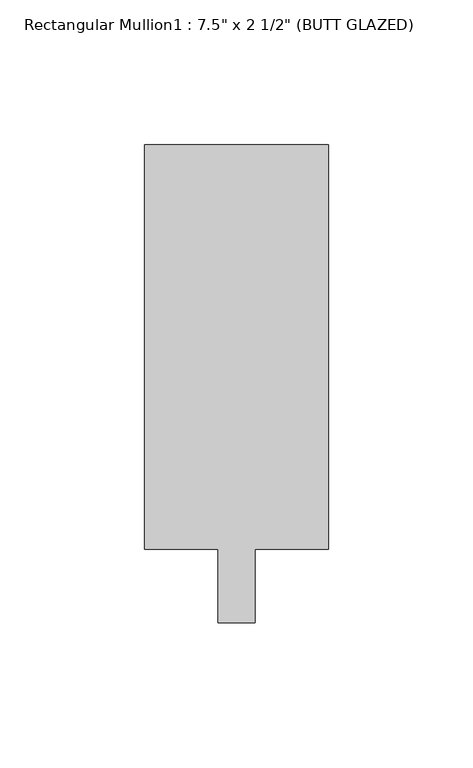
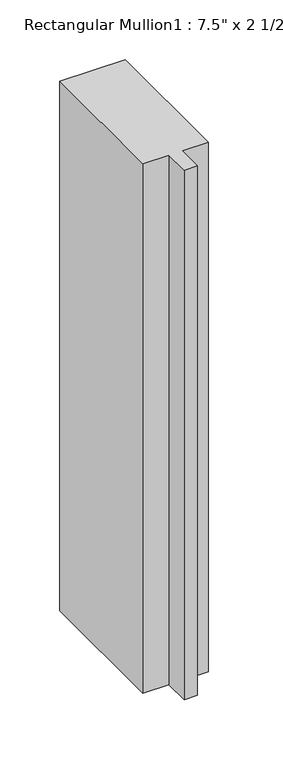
"""IFC4 building model written with IfcOpenShell, lengths in millimetres: member geometry."""

from ifc_helpers import new_model, si_unit, frame, origin, place, context, project, spatial, polyline, outline, extrude, source, transform, mapped, element, save


def member_46ba346a(model_context):
    return source(origin(), model_context, "Body", "SweptSolid", [
        extrude(outline(polyline([(31.75, 165.1), (31.75, 25.4), (6.35, 25.4), (6.35, 0.0), (-6.35, 0.0), (-6.35, 25.4), (-31.75, 25.4), (-31.75, 165.1), (31.75, 165.1)])), frame((0.0, 0.0, -542.9249983), z_axis=(0.0, 0.0, 1.0), x_axis=(1.0, 0.0, 0.0)), (0.0, 0.0, 1.0), 542.9249983),
    ])


if __name__ == "__main__":
    model = new_model("IFC4")
    model_context = context("Model", 3, world=origin())
    ifc_project = project(units=[si_unit("LENGTHUNIT", "METRE", prefix="MILLI")], contexts=[model_context])
    site = spatial("IfcSite", under=ifc_project)
    building = spatial("IfcBuilding", under=site)
    placement = place(None, origin())
    member_shape = member_46ba346a(model_context)
    element("IfcMember", 1, ObjectType="Rectangular Mullion1 : 7.5\" x 2 1/2\" (BUTT GLAZED)", at=placement, inside=building, context=model_context, shape_type="MappedRepresentation", body=[
        mapped(member_shape, transform((0.0, 0.0, 0.0), x_axis=(1.0, 0.0, 0.0), y_axis=(0.0, 1.0, 0.0), z_axis=(0.0, 0.0, 1.0))),
    ])
    save(model, "model.ifc")
